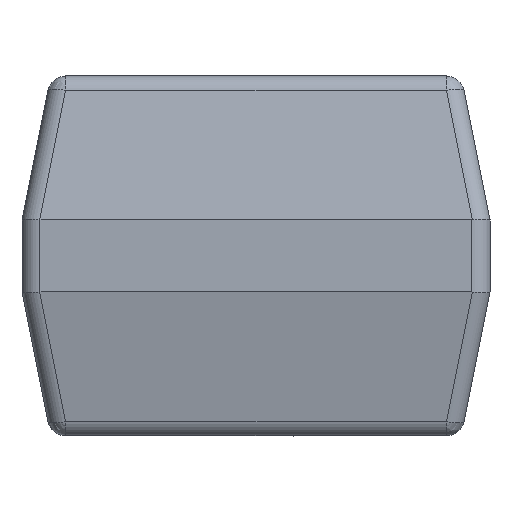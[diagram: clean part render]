
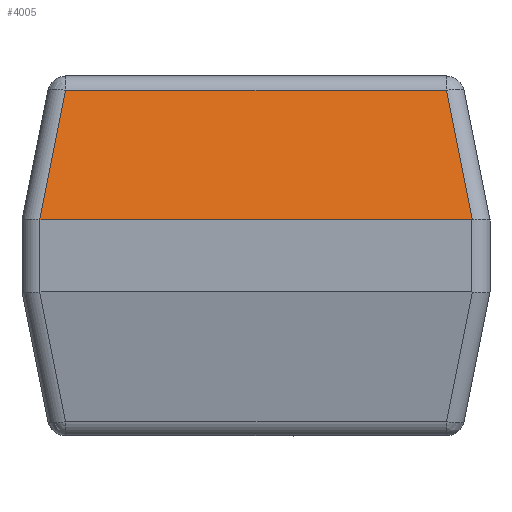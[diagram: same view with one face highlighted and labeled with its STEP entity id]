
A CAD part, front view. The second image highlights one B-rep face of the part: STEP entity #4005.
In plain terms, the highlighted planar face has unit normal (0, -0.981, 0.196).
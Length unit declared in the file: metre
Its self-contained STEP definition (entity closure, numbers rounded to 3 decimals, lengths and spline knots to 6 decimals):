
#15=ELLIPSE('',#5496,0.000254,0.00005);
#19=ELLIPSE('',#5507,0.000254,0.00005);
#1241=ORIENTED_EDGE('',*,*,#1974,.F.);
#1242=ORIENTED_EDGE('',*,*,#1905,.T.);
#1243=ORIENTED_EDGE('',*,*,#1893,.T.);
#1244=ORIENTED_EDGE('',*,*,#1884,.T.);
#1245=ORIENTED_EDGE('',*,*,#1901,.T.);
#1246=ORIENTED_EDGE('',*,*,#1915,.T.);
#1884=EDGE_CURVE('',#2285,#2284,#2627,.T.);
#1893=EDGE_CURVE('',#2289,#2285,#2630,.T.);
#1901=EDGE_CURVE('',#2284,#2296,#2635,.T.);
#1905=EDGE_CURVE('',#2299,#2289,#15,.T.);
#1915=EDGE_CURVE('',#2296,#2305,#19,.T.);
#1974=EDGE_CURVE('',#2299,#2305,#2670,.T.);
#2284=VERTEX_POINT('',#10555);
#2285=VERTEX_POINT('',#10557);
#2289=VERTEX_POINT('',#10571);
#2296=VERTEX_POINT('',#10590);
#2299=VERTEX_POINT('',#10599);
#2305=VERTEX_POINT('',#10617);
#2627=LINE('',#10556,#2962);
#2630=LINE('',#10574,#2965);
#2635=LINE('',#10591,#2970);
#2670=LINE('',#10731,#3005);
#2962=VECTOR('',#6196,1.);
#2965=VECTOR('',#6217,1.);
#2970=VECTOR('',#6234,1.);
#3005=VECTOR('',#6395,1.);
#3215=EDGE_LOOP('',(#1241,#1242,#1243,#1244,#1245,#1246));
#3448=FACE_BOUND('',#3215,.T.);
#3580=PLANE('',#5556);
#4005=ADVANCED_FACE('',(#3448),#3580,.T.);
#5496=AXIS2_PLACEMENT_3D('',#10598,#6241,#6242);
#5507=AXIS2_PLACEMENT_3D('',#10619,#6265,#6266);
#5556=AXIS2_PLACEMENT_3D('',#10730,#6393,#6394);
#6196=DIRECTION('',(-1.,0.,0.));
#6217=DIRECTION('',(-0.192,0.192,0.962));
#6234=DIRECTION('',(-0.192,-0.192,-0.962));
#6241=DIRECTION('',(0.,-0.981,0.196));
#6242=DIRECTION('',(0.,-0.196,-0.981));
#6265=DIRECTION('',(0.,-0.981,0.196));
#6266=DIRECTION('',(0.,-0.196,-0.981));
#6393=DIRECTION('',(0.,-0.981,0.196));
#6394=DIRECTION('',(-1.,0.,0.));
#6395=DIRECTION('',(-1.,0.,0.));
#10555=CARTESIAN_POINT('',(-0.070928,-0.025387,0.010507));
#10556=CARTESIAN_POINT('',(-0.0704,-0.025387,0.010507));
#10557=CARTESIAN_POINT('',(-0.069872,-0.025387,0.010507));
#10571=CARTESIAN_POINT('',(-0.0698,-0.025459,0.010148));
#10574=CARTESIAN_POINT('',(-0.069899,-0.02536,0.010643));
#10590=CARTESIAN_POINT('',(-0.071,-0.025459,0.010148));
#10591=CARTESIAN_POINT('',(-0.070901,-0.02536,0.010643));
#10598=CARTESIAN_POINT('',(-0.069801,-0.025409,0.010397));
#10599=CARTESIAN_POINT('',(-0.069801,-0.025459,0.010148));
#10617=CARTESIAN_POINT('',(-0.070999,-0.025459,0.010148));
#10619=CARTESIAN_POINT('',(-0.070999,-0.025409,0.010397));
#10730=CARTESIAN_POINT('',(-0.0704,-0.025379,0.010547));
#10731=CARTESIAN_POINT('',(-0.071049,-0.025459,0.010148));
